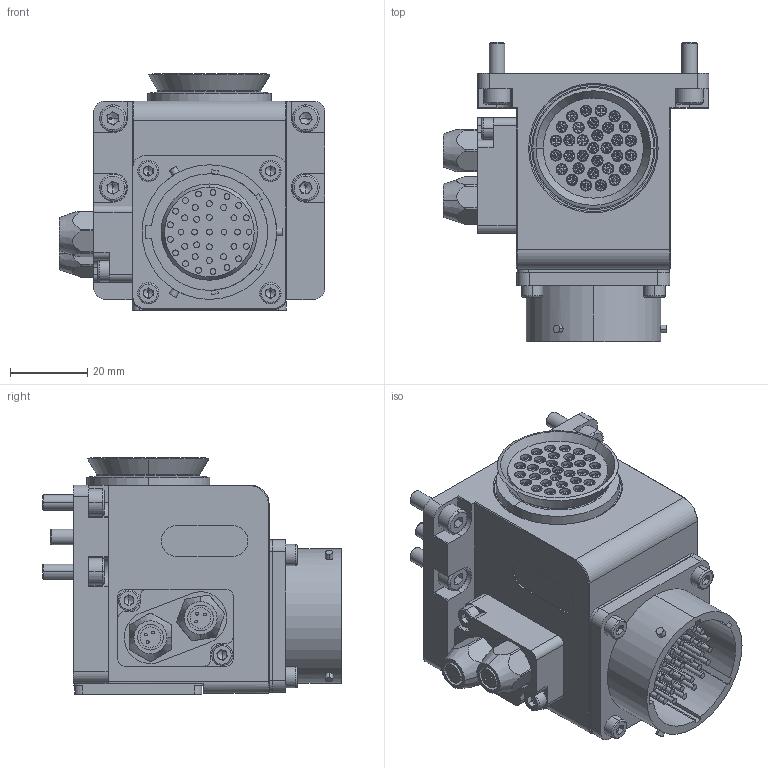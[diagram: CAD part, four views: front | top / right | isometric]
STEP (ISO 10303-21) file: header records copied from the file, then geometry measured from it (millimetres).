
FILE_DESCRIPTION (( 'STEP AP203' ), '1' );
FILE_NAME ('QCSM-32R（可外发）.STEP', '2024-01-02T01:54:27', ( '' ), ( '' ), 'SwSTEP 2.0', 'SolidWorks 2022', '' );
FILE_SCHEMA (( 'CONFIG_CONTROL_DESIGN' ));
Length unit declared in the file: millimetre
Products named in the file (1): QCSM-32R（可外发）
Bounding box: 69 x 77.56 x 61.4 mm (x, y, z)
Volume: 137969.3 mm3; surface area: 32552.2 mm2
Topology: 1 solids, 1 shells, 1732 faces, 3832 edges, 2271 vertices
Faces by surface type: plane 1200, cylinder 414, cone 90, torus 28
Entity records: 46989 total; most frequent: CARTESIAN_POINT 10061, DIRECTION 7674, ORIENTED_EDGE 7604, EDGE_CURVE 3802, AXIS2_PLACEMENT_3D 2746, VERTEX_POINT 2271, VECTOR 2182, LINE 2182
